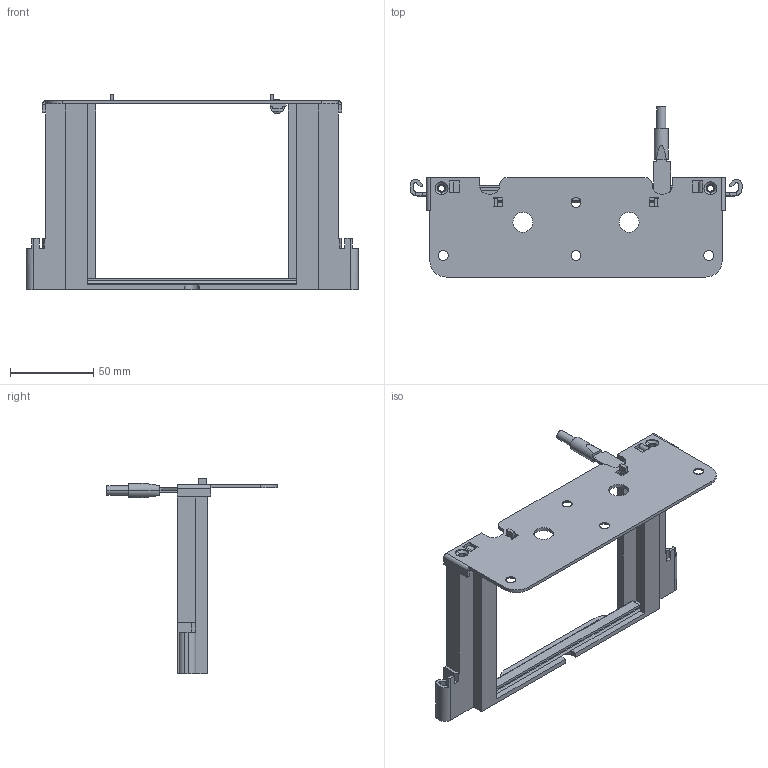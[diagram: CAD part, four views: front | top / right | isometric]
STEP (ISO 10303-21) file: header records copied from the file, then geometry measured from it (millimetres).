
FILE_DESCRIPTION (( 'STEP AP214' ), '1' );
FILE_NAME ('Kopfmontageset - F121100272207.step', '2010-10-18T11:27:50', ( 'grass' ), ( '' ), 'SwSTEP 2.0', 'SolidWorks 2010', '' );
FILE_SCHEMA (( 'AUTOMOTIVE_DESIGN' ));
Length unit declared in the file: millimetre
Products named in the file (1): Kopfmontageset - F121100272207
Bounding box: 200 x 102.5 x 117.94 mm (x, y, z)
Volume: 103434.2 mm3; surface area: 61752 mm2
Topology: 1 solids, 1 shells, 272 faces, 730 edges, 462 vertices
Faces by surface type: plane 179, cylinder 77, cone 16
Entity records: 8476 total; most frequent: CARTESIAN_POINT 1471, ORIENTED_EDGE 1460, DIRECTION 1438, EDGE_CURVE 730, VECTOR 564, LINE 564, VERTEX_POINT 462, AXIS2_PLACEMENT_3D 437
